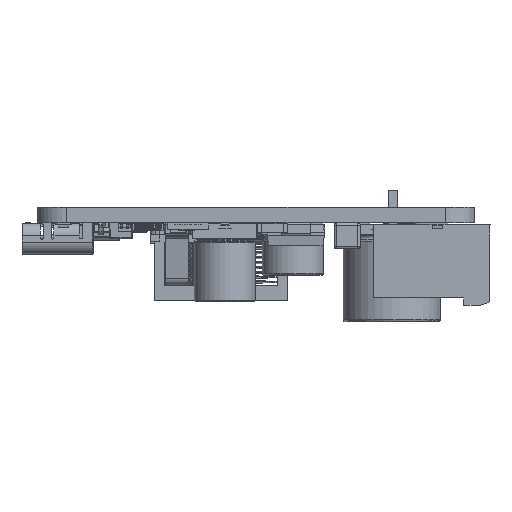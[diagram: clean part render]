
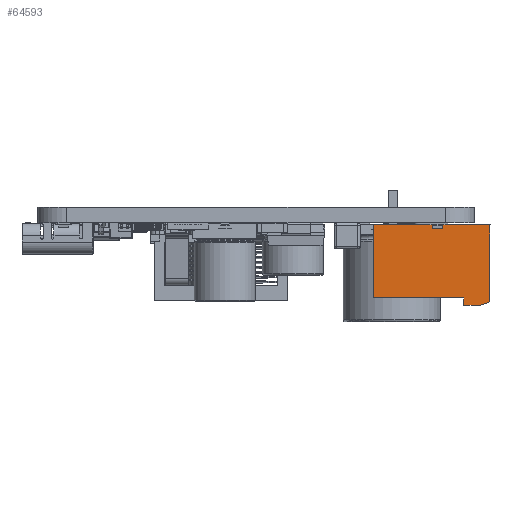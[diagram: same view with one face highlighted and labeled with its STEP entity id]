
A CAD part, left-side view. The second image highlights one B-rep face of the part: STEP entity #64593.
In plain terms, the highlighted planar face has unit normal (-1, 0, 0) as drawn and (1, 0, 0) by its records, which use the part's own axes.
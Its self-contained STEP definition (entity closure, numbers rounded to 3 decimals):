
#7035=FACE_OUTER_BOUND('',#10597,.T.);
#10597=EDGE_LOOP('',(#47561,#47562,#47563,#47564,#47565,#47566,#47567,#47568,
#47569));
#15017=LINE('',#100328,#22022);
#15027=LINE('',#100348,#22032);
#15035=LINE('',#100362,#22040);
#15091=LINE('',#100499,#22096);
#15099=LINE('',#100515,#22104);
#15109=LINE('',#100535,#22114);
#15127=LINE('',#100568,#22132);
#15131=LINE('',#100579,#22136);
#15132=LINE('',#100580,#22137);
#22022=VECTOR('',#76201,1.);
#22032=VECTOR('',#76219,1.);
#22040=VECTOR('',#76233,1.);
#22096=VECTOR('',#76375,1.);
#22104=VECTOR('',#76385,1.);
#22114=VECTOR('',#76399,1.);
#22132=VECTOR('',#76423,1.);
#22136=VECTOR('',#76439,1.);
#22137=VECTOR('',#76440,1.);
#28835=VERTEX_POINT('',#100325);
#28836=VERTEX_POINT('',#100327);
#28842=VERTEX_POINT('',#100347);
#28845=VERTEX_POINT('',#100361);
#28883=VERTEX_POINT('',#100498);
#28890=VERTEX_POINT('',#100514);
#28897=VERTEX_POINT('',#100532);
#28898=VERTEX_POINT('',#100534);
#28911=VERTEX_POINT('',#100578);
#35670=EDGE_CURVE('',#28836,#28835,#15017,.T.);
#35680=EDGE_CURVE('',#28842,#28836,#15027,.T.);
#35688=EDGE_CURVE('',#28845,#28842,#15035,.T.);
#35754=EDGE_CURVE('',#28883,#28845,#15091,.T.);
#35762=EDGE_CURVE('',#28890,#28883,#15099,.T.);
#35772=EDGE_CURVE('',#28898,#28897,#15109,.T.);
#35790=EDGE_CURVE('',#28897,#28890,#15127,.T.);
#35794=EDGE_CURVE('',#28835,#28911,#15131,.T.);
#35795=EDGE_CURVE('',#28911,#28898,#15132,.T.);
#47561=ORIENTED_EDGE('',*,*,#35670,.T.);
#47562=ORIENTED_EDGE('',*,*,#35794,.T.);
#47563=ORIENTED_EDGE('',*,*,#35795,.T.);
#47564=ORIENTED_EDGE('',*,*,#35772,.T.);
#47565=ORIENTED_EDGE('',*,*,#35790,.T.);
#47566=ORIENTED_EDGE('',*,*,#35762,.T.);
#47567=ORIENTED_EDGE('',*,*,#35754,.T.);
#47568=ORIENTED_EDGE('',*,*,#35688,.T.);
#47569=ORIENTED_EDGE('',*,*,#35680,.T.);
#61996=PLANE('',#68621);
#64593=ADVANCED_FACE('',(#7035),#61996,.T.);
#68621=AXIS2_PLACEMENT_3D('',#100577,#76437,#76438);
#76201=DIRECTION('',(0.,-1.,0.));
#76219=DIRECTION('',(0.,-0.33,0.944));
#76233=DIRECTION('',(0.,0.,1.));
#76375=DIRECTION('',(0.,1.,0.));
#76385=DIRECTION('',(0.,0.,1.));
#76399=DIRECTION('',(0.,0.,-1.));
#76423=DIRECTION('',(0.,1.,0.));
#76437=DIRECTION('center_axis',(1.,0.,0.));
#76438=DIRECTION('ref_axis',(0.,0.,-1.));
#76439=DIRECTION('',(0.,0.,-1.));
#76440=DIRECTION('',(0.,-1.,0.));
#100325=CARTESIAN_POINT('',(5.99,-3.78,0.));
#100327=CARTESIAN_POINT('',(5.99,4.15,0.));
#100328=CARTESIAN_POINT('',(5.99,4.15,0.));
#100347=CARTESIAN_POINT('',(5.99,4.5,-1.));
#100348=CARTESIAN_POINT('',(5.99,4.5,-1.));
#100361=CARTESIAN_POINT('',(5.99,4.5,-2.7));
#100362=CARTESIAN_POINT('',(5.99,4.5,-2.7));
#100498=CARTESIAN_POINT('',(5.99,3.75,-2.7));
#100499=CARTESIAN_POINT('',(5.99,3.75,-2.7));
#100514=CARTESIAN_POINT('',(5.99,3.75,-12.));
#100515=CARTESIAN_POINT('',(5.99,3.75,-12.));
#100532=CARTESIAN_POINT('',(5.99,-3.85,-12.));
#100534=CARTESIAN_POINT('',(5.99,-3.85,-2.7));
#100535=CARTESIAN_POINT('',(5.99,-3.85,-2.7));
#100568=CARTESIAN_POINT('',(5.99,-3.85,-12.));
#100577=CARTESIAN_POINT('Origin',(5.99,0.,0.));
#100578=CARTESIAN_POINT('',(5.99,-3.78,-2.7));
#100579=CARTESIAN_POINT('',(5.99,-3.78,0.));
#100580=CARTESIAN_POINT('',(5.99,-3.78,-2.7));
